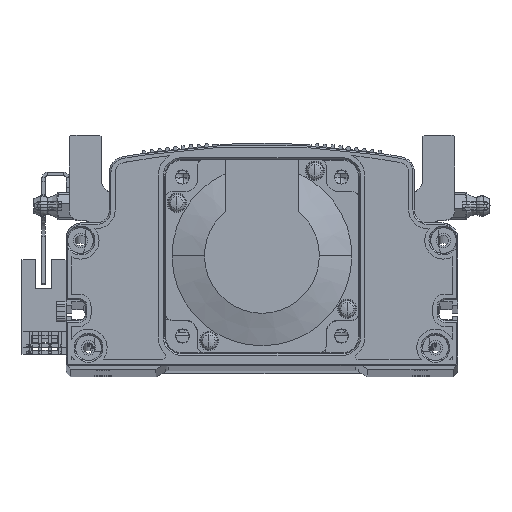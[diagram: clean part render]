
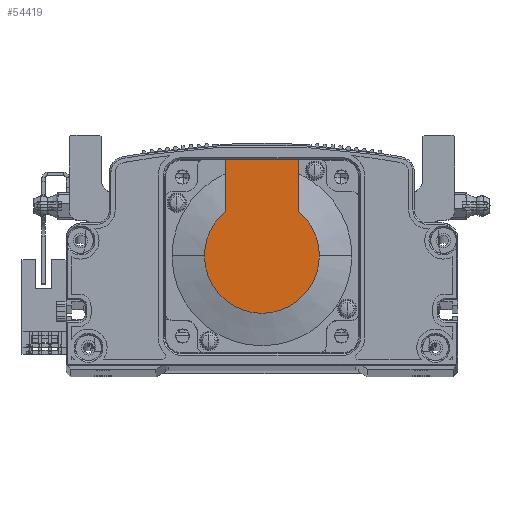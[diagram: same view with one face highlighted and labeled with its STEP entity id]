
A CAD part, top view. The second image highlights one B-rep face of the part: STEP entity #54419.
In plain terms, the highlighted planar face has unit normal (0, 0, 1) as drawn and (-1, 0, 0) by its records, which use the part's own axes.
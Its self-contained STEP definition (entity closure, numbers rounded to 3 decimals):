
#1967 = LINE ( 'NONE', #59397, #25347 ) ;
#4320 = CARTESIAN_POINT ( 'NONE',  ( -118.5, 0., -17.881 ) ) ;
#5613 = ORIENTED_EDGE ( 'NONE', *, *, #31884, .F. ) ;
#5896 = VECTOR ( 'NONE', #21211, 1000. ) ;
#7120 = VECTOR ( 'NONE', #58594, 1000. ) ;
#9044 = PLANE ( 'NONE',  #52081 ) ;
#9626 = DIRECTION ( 'NONE',  ( 0., 0., 1. ) ) ;
#10772 = CARTESIAN_POINT ( 'NONE',  ( -118.5, 0., 0. ) ) ;
#12468 = VERTEX_POINT ( 'NONE', #23068 ) ;
#13083 = VERTEX_POINT ( 'NONE', #60807 ) ;
#13459 = CARTESIAN_POINT ( 'NONE',  ( -118.5, 30., 25. ) ) ;
#13714 = FACE_OUTER_BOUND ( 'NONE', #47231, .T. ) ;
#14263 = CARTESIAN_POINT ( 'NONE',  ( -118.5, 0., 0. ) ) ;
#17057 = CARTESIAN_POINT ( 'NONE',  ( -118.5, -8.941, -11.45 ) ) ;
#19022 = DIRECTION ( 'NONE',  ( 0., -1., 0. ) ) ;
#19971 = LINE ( 'NONE', #17057, #7120 ) ;
#20007 = EDGE_CURVE ( 'NONE', #43585, #12468, #54344, .T. ) ;
#21211 = DIRECTION ( 'NONE',  ( 0., 0., 1. ) ) ;
#23068 = CARTESIAN_POINT ( 'NONE',  ( -118.5, 13.735, 11.45 ) ) ;
#23101 = CARTESIAN_POINT ( 'NONE',  ( -118.5, 30., 11.45 ) ) ;
#23415 = CIRCLE ( 'NONE', #34853, 17.881 ) ;
#25031 = CARTESIAN_POINT ( 'NONE',  ( -118.5, 0., 0. ) ) ;
#25347 = VECTOR ( 'NONE', #19022, 1000. ) ;
#27868 = CIRCLE ( 'NONE', #36657, 17.881 ) ;
#28101 = ORIENTED_EDGE ( 'NONE', *, *, #41110, .T. ) ;
#29467 = AXIS2_PLACEMENT_3D ( 'NONE', #25031, #58868, #78217 ) ;
#31884 = EDGE_CURVE ( 'NONE', #68479, #46997, #80342, .T. ) ;
#33576 = DIRECTION ( 'NONE',  ( 0., 0., -1. ) ) ;
#34853 = AXIS2_PLACEMENT_3D ( 'NONE', #10772, #71072, #58306 ) ;
#36657 = AXIS2_PLACEMENT_3D ( 'NONE', #14263, #53734, #33576 ) ;
#41110 = EDGE_CURVE ( 'NONE', #13083, #45305, #23415, .T. ) ;
#42411 = CARTESIAN_POINT ( 'NONE',  ( -118.5, 30., -11.45 ) ) ;
#43585 = VERTEX_POINT ( 'NONE', #61662 ) ;
#45305 = VERTEX_POINT ( 'NONE', #4320 ) ;
#46997 = VERTEX_POINT ( 'NONE', #23101 ) ;
#47231 = EDGE_LOOP ( 'NONE', ( #82972, #28101, #63690, #72989, #48723, #5613 ) ) ;
#48723 = ORIENTED_EDGE ( 'NONE', *, *, #78317, .F. ) ;
#52081 = AXIS2_PLACEMENT_3D ( 'NONE', #78262, #77085, #9626 ) ;
#53734 = DIRECTION ( 'NONE',  ( -1., 0., 0. ) ) ;
#54344 = CIRCLE ( 'NONE', #29467, 17.881 ) ;
#54419 = ADVANCED_FACE ( 'NONE', ( #13714 ), #9044, .T. ) ;
#58306 = DIRECTION ( 'NONE',  ( 0., 0., -1. ) ) ;
#58594 = DIRECTION ( 'NONE',  ( 0., -1., 0. ) ) ;
#58868 = DIRECTION ( 'NONE',  ( -1., 0., 0. ) ) ;
#59397 = CARTESIAN_POINT ( 'NONE',  ( -118.5, 0., 11.45 ) ) ;
#60272 = EDGE_CURVE ( 'NONE', #68479, #13083, #19971, .T. ) ;
#60807 = CARTESIAN_POINT ( 'NONE',  ( -118.5, 13.735, -11.45 ) ) ;
#61662 = CARTESIAN_POINT ( 'NONE',  ( -118.5, 0., 17.881 ) ) ;
#63690 = ORIENTED_EDGE ( 'NONE', *, *, #82929, .T. ) ;
#68479 = VERTEX_POINT ( 'NONE', #42411 ) ;
#71072 = DIRECTION ( 'NONE',  ( -1., 0., 0. ) ) ;
#72989 = ORIENTED_EDGE ( 'NONE', *, *, #20007, .T. ) ;
#77085 = DIRECTION ( 'NONE',  ( -1., 0., 0. ) ) ;
#78217 = DIRECTION ( 'NONE',  ( 0., 0., -1. ) ) ;
#78262 = CARTESIAN_POINT ( 'NONE',  ( -118.5, -8.941, 0. ) ) ;
#78317 = EDGE_CURVE ( 'NONE', #46997, #12468, #1967, .T. ) ;
#80342 = LINE ( 'NONE', #13459, #5896 ) ;
#82929 = EDGE_CURVE ( 'NONE', #45305, #43585, #27868, .T. ) ;
#82972 = ORIENTED_EDGE ( 'NONE', *, *, #60272, .T. ) ;
